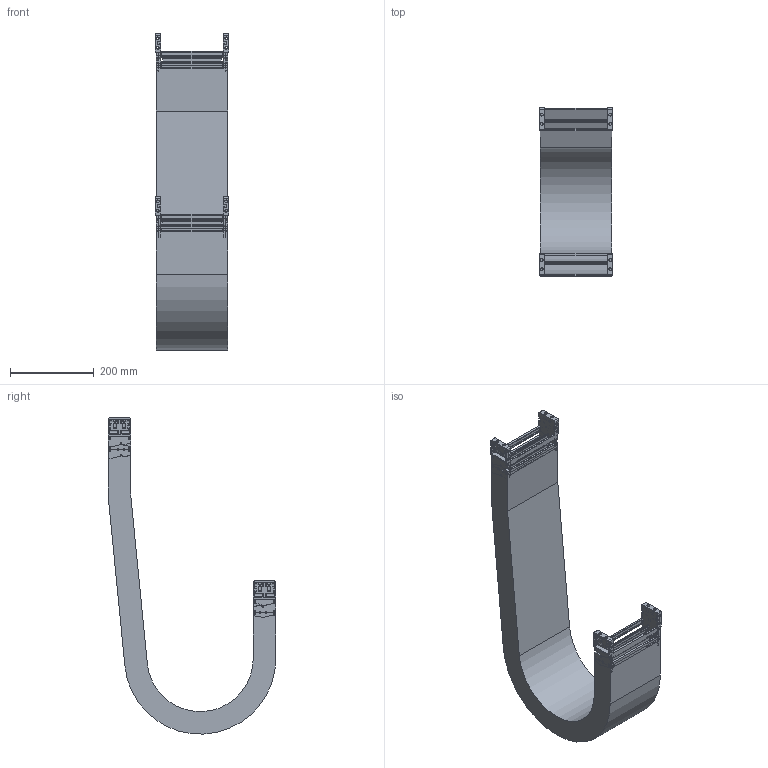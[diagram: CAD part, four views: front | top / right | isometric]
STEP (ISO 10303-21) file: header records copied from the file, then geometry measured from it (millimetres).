
FILE_DESCRIPTION((''),'2;1');
FILE_NAME('KST-40150-150_ASM','2017-12-06T',('KUNI004K'),(''),'PRO/ENGINEER BY PARAMETRIC TECHNOLOGY CORPORATION, 2015200','PRO/ENGINEER BY PARAMETRIC TECHNOLOGY CORPORATION, 2015200','');
FILE_SCHEMA(('AUTOMOTIVE_DESIGN { 1 0 10303 214 1 1 1 1 }'));
Length unit declared in the file: millimetre
Products named in the file (13): 40FBR; 40FBL; 40150C; KST40FB_W150_ASM; KST40150R; KST40150L; 40150H; KST40150-150_1_ASM; KST40150_R150_BODY; 40MBR; 40MBL; KST40MB_W150_ASM; KST-40150-150_ASM
Assembly tree (19 placements, depth 3):
  KST-40150-150_ASM
    KST40FB_W150_ASM
      40FBR
      40FBL
      40150C  x2
    KST40150-150_1_ASM  x2
      KST40150R
      KST40150L
      40150C
      40150H
    KST40150_R150_BODY
    KST40MB_W150_ASM
      40MBR
      40MBL
      40150C  x2
Bounding box: 176 x 401 x 756.33 mm (x, y, z)
Volume: 3685200.9 mm3; surface area: 1411465.3 mm2
Topology: 21 solids, 21 shells, 2984 faces, 8206 edges, 5292 vertices
Faces by surface type: plane 1590, cylinder 1026, bspline 300, torus 68
Entity records: 70290 total; most frequent: CARTESIAN_POINT 14019, ORIENTED_EDGE 7560, DIRECTION 6868, PRESENTATION_STYLE_ASSIGNMENT 5152, STYLED_ITEM 5152, CURVE_STYLE 3780, EDGE_CURVE 3780, VECTOR 2468
